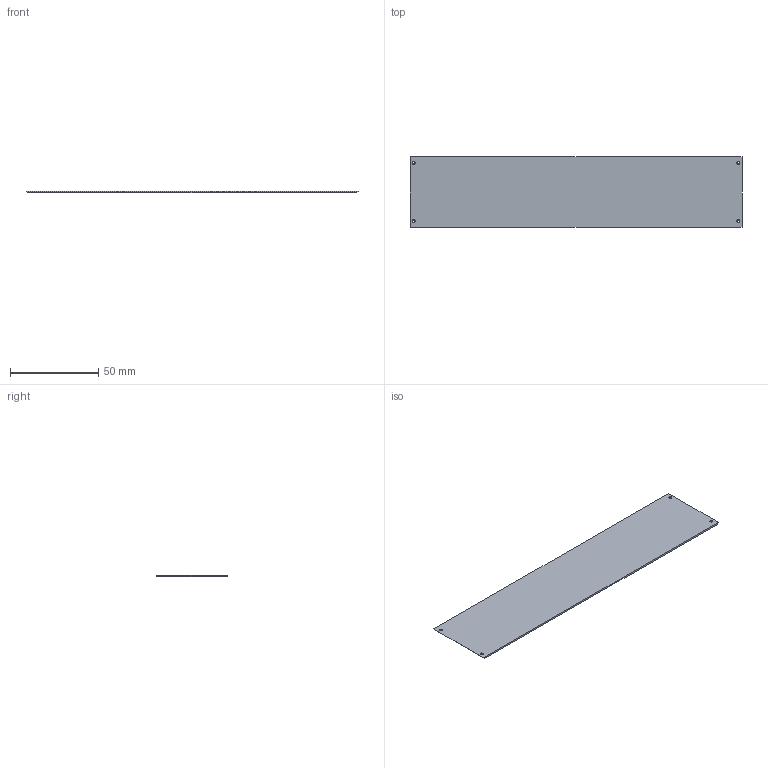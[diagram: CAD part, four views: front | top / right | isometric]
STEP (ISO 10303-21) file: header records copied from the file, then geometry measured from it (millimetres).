
FILE_DESCRIPTION((''),'2;1');
FILE_NAME('CASE-A','2023-06-07T15:00:44',('lamadaemon'),(''),'CREO PARAMETRIC BY PTC INC, 2022073','CREO PARAMETRIC BY PTC INC, 2022073','');
FILE_SCHEMA(('CONFIG_CONTROL_DESIGN'));
Length unit declared in the file: millimetre
Products named in the file (1): CASE-A
Bounding box: 188 x 40 x 1 mm (x, y, z)
Volume: 7474.7 mm3; surface area: 15474.2 mm2
Topology: 1 solids, 5 shells, 22 faces, 60 edges, 40 vertices
Faces by surface type: cylinder 16, plane 6
Entity records: 767 total; most frequent: DIRECTION 138, CARTESIAN_POINT 123, ORIENTED_EDGE 104, EDGE_CURVE 60, AXIS2_PLACEMENT_3D 55, VERTEX_POINT 40, CIRCLE 32, EDGE_LOOP 30
